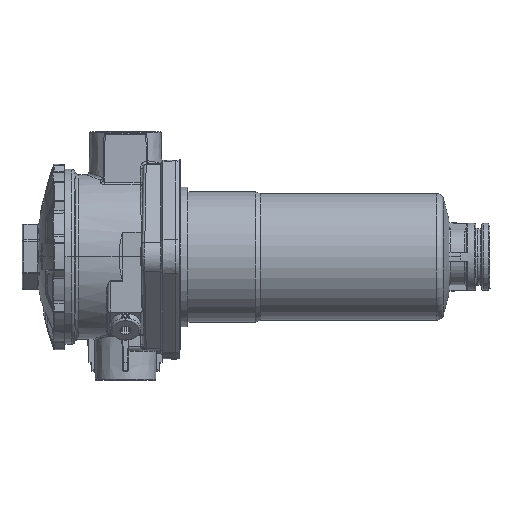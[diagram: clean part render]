
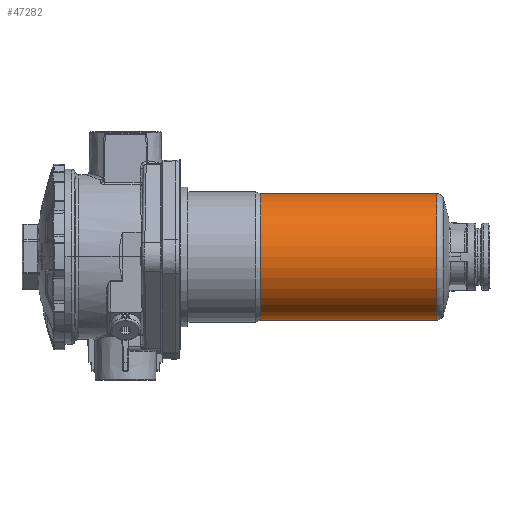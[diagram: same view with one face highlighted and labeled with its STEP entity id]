
A CAD part, top view. The second image highlights one B-rep face of the part: STEP entity #47282.
In plain terms, the highlighted cylindrical face has radius 35.5 mm (diameter 71 mm), a partial arc.
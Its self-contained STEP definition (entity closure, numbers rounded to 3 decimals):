
#8309=CARTESIAN_POINT('',(109.347,0.,0.));
#8310=DIRECTION('',(1.,0.,0.));
#8311=DIRECTION('',(0.,1.,0.));
#8312=AXIS2_PLACEMENT_3D('',#8309,#8310,#8311);
#8324=DIRECTION('',(-1.,0.,0.));
#8325=VECTOR('',#8324,98.798);
#8326=CARTESIAN_POINT('',(208.145,-35.5,
0.));
#8327=LINE('',#8326,#8325);
#8331=DIRECTION('',(-1.,0.,0.));
#8332=VECTOR('',#8331,98.798);
#8333=CARTESIAN_POINT('',(208.145,35.5,
-0.004));
#8334=LINE('',#8333,#8332);
#8370=CARTESIAN_POINT('',(208.145,0.,
0.));
#8371=DIRECTION('',(-1.,0.,0.));
#8372=DIRECTION('',(0.,-1.,0.));
#8373=AXIS2_PLACEMENT_3D('',#8370,#8371,#8372);
#32020=CARTESIAN_POINT('',(109.347,-35.5,0.));
#32021=VERTEX_POINT('',#32020);
#32022=CARTESIAN_POINT('',(109.347,35.5,0.));
#32023=VERTEX_POINT('',#32022);
#32024=CARTESIAN_POINT('',(208.145,35.5,
-0.004));
#32025=VERTEX_POINT('',#32024);
#32026=CARTESIAN_POINT('',(208.145,-35.5,
0.));
#32027=VERTEX_POINT('',#32026);
#47268=CARTESIAN_POINT('',(160.281,0.,0.));
#47269=DIRECTION('',(1.,0.,0.));
#47270=DIRECTION('',(0.,-1.,0.));
#47271=AXIS2_PLACEMENT_3D('',#47268,#47269,#47270);
#47272=CYLINDRICAL_SURFACE('',#47271,35.5);
#47273=ORIENTED_EDGE('',*,*,#47255,.F.);
#47275=ORIENTED_EDGE('',*,*,#47274,.F.);
#47277=ORIENTED_EDGE('',*,*,#47276,.F.);
#47279=ORIENTED_EDGE('',*,*,#47278,.T.);
#47280=EDGE_LOOP('',(#47273,#47275,#47277,#47279));
#47281=FACE_OUTER_BOUND('',#47280,.F.);
#8313=CIRCLE('',#8312,35.5);
#8374=CIRCLE('',#8373,35.5);
#47255=EDGE_CURVE('',#32023,#32021,#8313,.T.);
#47274=EDGE_CURVE('',#32025,#32023,#8334,.T.);
#47276=EDGE_CURVE('',#32027,#32025,#8374,.T.);
#47278=EDGE_CURVE('',#32027,#32021,#8327,.T.);
#47282=ADVANCED_FACE('',(#47281),#47272,.T.);
